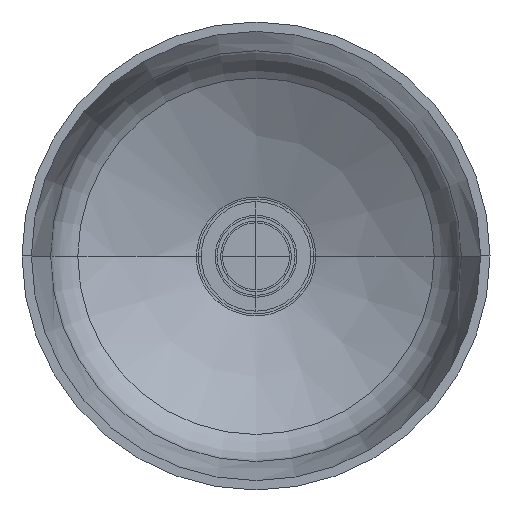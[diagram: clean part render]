
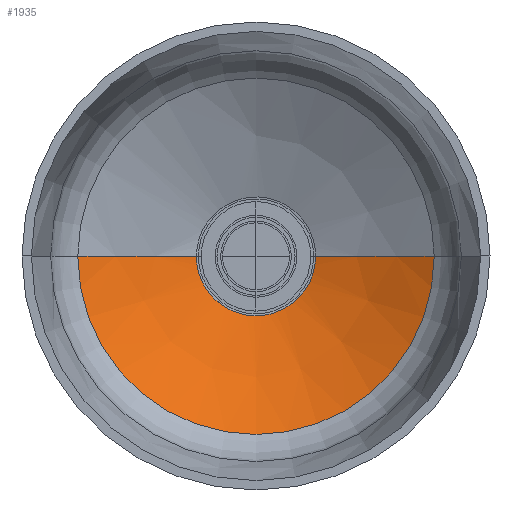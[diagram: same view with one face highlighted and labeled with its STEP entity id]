
A CAD part, top view. The second image highlights one B-rep face of the part: STEP entity #1935.
In plain terms, the highlighted free-form (B-spline) face has degree [2, 2] with [3, 5] control points.
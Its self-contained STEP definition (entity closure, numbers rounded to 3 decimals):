
#44=(
BOUNDED_CURVE()
B_SPLINE_CURVE(2,(#3582,#3583,#3584),.UNSPECIFIED.,.F.,.F.)
B_SPLINE_CURVE_WITH_KNOTS((3,3),(1.007,1.298),
 .UNSPECIFIED.)
CURVE()
GEOMETRIC_REPRESENTATION_ITEM()
RATIONAL_B_SPLINE_CURVE((1.,0.989,1.))
REPRESENTATION_ITEM('')
);
#49=(
BOUNDED_SURFACE()
B_SPLINE_SURFACE(2,2,((#3566,#3567,#3568,#3569,#3570),(#3571,#3572,#3573,
#3574,#3575),(#3576,#3577,#3578,#3579,#3580)),.UNSPECIFIED.,.F.,.F.,.F.)
B_SPLINE_SURFACE_WITH_KNOTS((3,3),(3,2,3),(-1.298,-1.007),
(0.,1.571,3.142),.UNSPECIFIED.)
GEOMETRIC_REPRESENTATION_ITEM()
RATIONAL_B_SPLINE_SURFACE(((1.,0.707,1.,0.707,1.),
(0.989,0.7,0.989,0.7,
0.989),(1.,0.707,1.,0.707,1.)))
REPRESENTATION_ITEM('')
SURFACE()
);
#204=FACE_OUTER_BOUND('',#330,.T.);
#330=EDGE_LOOP('',(#1509,#1510,#1511,#1512,#1513));
#454=CIRCLE('',#2124,95.897);
#801=B_SPLINE_CURVE_WITH_KNOTS('',3,(#3534,#3535,#3536,#3537,#3538,#3539,
#3540),.UNSPECIFIED.,.F.,.F.,(4,1,1,1,4),(0.284,0.4,0.6,0.8,
1.),.UNSPECIFIED.);
#802=B_SPLINE_CURVE_WITH_KNOTS('',3,(#3542,#3543,#3544,#3545,#3546),
 .UNSPECIFIED.,.F.,.F.,(4,1,4),(0.,0.2,0.284),
 .UNSPECIFIED.);
#806=B_SPLINE_CURVE_WITH_KNOTS('',3,(#3587,#3588,#3589,#3590,#3591,#3592,
#3593,#3594,#3595,#3596,#3597,#3598,#3599,#3600,#3601,#3602,#3603,#3604,
#3605,#3606,#3607,#3608,#3609,#3610,#3611,#3612,#3613,#3614,#3615,#3616,
#3617,#3618,#3619,#3620,#3621,#3622,#3623),.UNSPECIFIED.,.F.,.F.,(4,3,3,
3,3,3,3,3,3,3,3,3,4),(0.,0.088,0.176,
0.264,0.356,0.444,0.532,
0.62,0.708,0.796,0.884,
0.972,1.),.UNSPECIFIED.);
#877=VERTEX_POINT('',#3527);
#878=VERTEX_POINT('',#3533);
#879=VERTEX_POINT('',#3541);
#881=VERTEX_POINT('',#3581);
#882=VERTEX_POINT('',#3585);
#1100=EDGE_CURVE('',#878,#877,#801,.T.);
#1101=EDGE_CURVE('',#879,#878,#802,.T.);
#1105=EDGE_CURVE('',#881,#877,#44,.T.);
#1106=EDGE_CURVE('',#882,#881,#454,.T.);
#1107=EDGE_CURVE('',#879,#882,#806,.T.);
#1509=ORIENTED_EDGE('',*,*,#1101,.T.);
#1510=ORIENTED_EDGE('',*,*,#1100,.T.);
#1511=ORIENTED_EDGE('',*,*,#1105,.F.);
#1512=ORIENTED_EDGE('',*,*,#1106,.F.);
#1513=ORIENTED_EDGE('',*,*,#1107,.F.);
#1935=ADVANCED_FACE('',(#204),#49,.T.);
#2124=AXIS2_PLACEMENT_3D('',#3586,#2544,#2545);
#2544=DIRECTION('center_axis',(0.,0.,
1.));
#2545=DIRECTION('ref_axis',(-1.,0.,0.));
#3527=CARTESIAN_POINT('',(-31.968,0.,75.693));
#3533=CARTESIAN_POINT('',(19.993,24.877,75.693));
#3534=CARTESIAN_POINT('Ctrl Pts',(19.993,24.877,75.693));
#3535=CARTESIAN_POINT('Ctrl Pts',(16.978,27.3,75.693));
#3536=CARTESIAN_POINT('Ctrl Pts',(7.607,32.486,75.693));
#3537=CARTESIAN_POINT('Ctrl Pts',(-10.587,32.486,75.693));
#3538=CARTESIAN_POINT('Ctrl Pts',(-27.509,19.986,75.693));
#3539=CARTESIAN_POINT('Ctrl Pts',(-32.204,6.868,75.693));
#3540=CARTESIAN_POINT('Ctrl Pts',(-31.968,0.,
75.693));
#3541=CARTESIAN_POINT('',(31.968,0.,75.693));
#3542=CARTESIAN_POINT('Ctrl Pts',(31.968,0.,
75.693));
#3543=CARTESIAN_POINT('Ctrl Pts',(32.204,6.868,75.693));
#3544=CARTESIAN_POINT('Ctrl Pts',(28.865,16.197,75.693));
#3545=CARTESIAN_POINT('Ctrl Pts',(22.196,23.106,75.693));
#3546=CARTESIAN_POINT('Ctrl Pts',(19.993,24.877,75.693));
#3566=CARTESIAN_POINT('Ctrl Pts',(-31.915,0.,
75.708));
#3567=CARTESIAN_POINT('Ctrl Pts',(-31.915,31.915,75.708));
#3568=CARTESIAN_POINT('Ctrl Pts',(0.,31.915,
75.708));
#3569=CARTESIAN_POINT('Ctrl Pts',(31.915,31.915,75.708));
#3570=CARTESIAN_POINT('Ctrl Pts',(31.915,0.,
75.708));
#3571=CARTESIAN_POINT('Ctrl Pts',(-65.994,0.,
66.178));
#3572=CARTESIAN_POINT('Ctrl Pts',(-65.994,65.994,66.178));
#3573=CARTESIAN_POINT('Ctrl Pts',(0.,65.994,
66.178));
#3574=CARTESIAN_POINT('Ctrl Pts',(65.994,65.994,66.178));
#3575=CARTESIAN_POINT('Ctrl Pts',(65.994,0.,
66.178));
#3576=CARTESIAN_POINT('Ctrl Pts',(-95.897,0.,
47.259));
#3577=CARTESIAN_POINT('Ctrl Pts',(-95.897,95.897,47.259));
#3578=CARTESIAN_POINT('Ctrl Pts',(0.,95.897,
47.259));
#3579=CARTESIAN_POINT('Ctrl Pts',(95.897,95.897,47.259));
#3580=CARTESIAN_POINT('Ctrl Pts',(95.897,0.,
47.259));
#3581=CARTESIAN_POINT('',(-95.897,0.,47.259));
#3582=CARTESIAN_POINT('Ctrl Pts',(-95.897,0.,
47.259));
#3583=CARTESIAN_POINT('Ctrl Pts',(-66.019,0.,
66.162));
#3584=CARTESIAN_POINT('Ctrl Pts',(-31.972,0.,
75.692));
#3585=CARTESIAN_POINT('',(95.897,0.,47.259));
#3586=CARTESIAN_POINT('Origin',(0.,0.,
47.259));
#3587=CARTESIAN_POINT('Ctrl Pts',(31.972,0.,
75.692));
#3588=CARTESIAN_POINT('Ctrl Pts',(33.952,0.,
75.138));
#3589=CARTESIAN_POINT('Ctrl Pts',(35.926,0.,
74.558));
#3590=CARTESIAN_POINT('Ctrl Pts',(37.894,0.,
73.953));
#3591=CARTESIAN_POINT('Ctrl Pts',(39.86,0.,
73.347));
#3592=CARTESIAN_POINT('Ctrl Pts',(41.82,0.,
72.717));
#3593=CARTESIAN_POINT('Ctrl Pts',(43.773,0.,
72.061));
#3594=CARTESIAN_POINT('Ctrl Pts',(45.724,0.,
71.405));
#3595=CARTESIAN_POINT('Ctrl Pts',(47.668,0.,
70.724));
#3596=CARTESIAN_POINT('Ctrl Pts',(49.604,0.,
70.018));
#3597=CARTESIAN_POINT('Ctrl Pts',(51.628,0.,
69.28));
#3598=CARTESIAN_POINT('Ctrl Pts',(53.642,0.,
68.514));
#3599=CARTESIAN_POINT('Ctrl Pts',(55.647,0.,
67.722));
#3600=CARTESIAN_POINT('Ctrl Pts',(57.563,0.,
66.964));
#3601=CARTESIAN_POINT('Ctrl Pts',(59.47,0.,
66.181));
#3602=CARTESIAN_POINT('Ctrl Pts',(61.366,0.,
65.375));
#3603=CARTESIAN_POINT('Ctrl Pts',(63.263,0.,
64.568));
#3604=CARTESIAN_POINT('Ctrl Pts',(65.15,0.,
63.737));
#3605=CARTESIAN_POINT('Ctrl Pts',(67.025,0.,
62.881));
#3606=CARTESIAN_POINT('Ctrl Pts',(68.901,0.,
62.026));
#3607=CARTESIAN_POINT('Ctrl Pts',(70.765,0.,
61.147));
#3608=CARTESIAN_POINT('Ctrl Pts',(72.617,0.,
60.244));
#3609=CARTESIAN_POINT('Ctrl Pts',(74.47,0.,
59.341));
#3610=CARTESIAN_POINT('Ctrl Pts',(76.311,0.,
58.414));
#3611=CARTESIAN_POINT('Ctrl Pts',(78.139,0.,
57.464));
#3612=CARTESIAN_POINT('Ctrl Pts',(79.969,0.,
56.514));
#3613=CARTESIAN_POINT('Ctrl Pts',(81.785,0.,
55.541));
#3614=CARTESIAN_POINT('Ctrl Pts',(83.588,0.,
54.545));
#3615=CARTESIAN_POINT('Ctrl Pts',(85.392,0.,
53.548));
#3616=CARTESIAN_POINT('Ctrl Pts',(87.181,0.,
52.529));
#3617=CARTESIAN_POINT('Ctrl Pts',(88.957,0.,
51.488));
#3618=CARTESIAN_POINT('Ctrl Pts',(90.734,0.,
50.446));
#3619=CARTESIAN_POINT('Ctrl Pts',(92.496,0.,
49.382));
#3620=CARTESIAN_POINT('Ctrl Pts',(94.243,0.,
48.296));
#3621=CARTESIAN_POINT('Ctrl Pts',(94.796,0.,
47.952));
#3622=CARTESIAN_POINT('Ctrl Pts',(95.347,0.,
47.607));
#3623=CARTESIAN_POINT('Ctrl Pts',(95.897,0.,
47.259));
